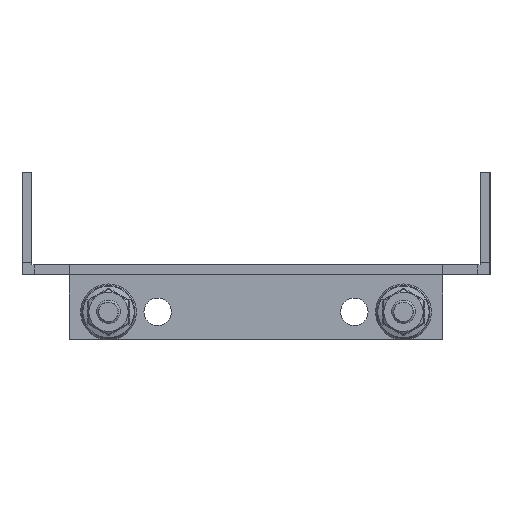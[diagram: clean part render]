
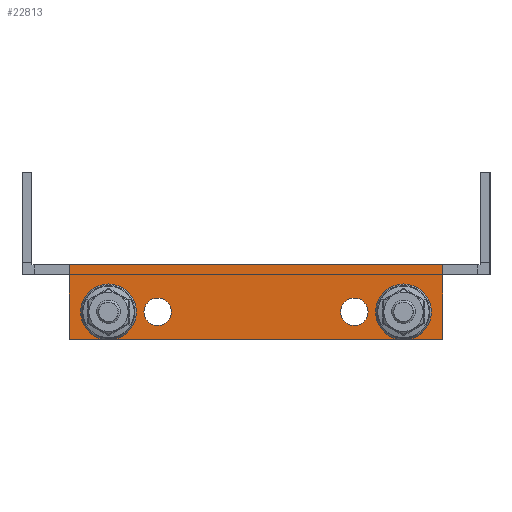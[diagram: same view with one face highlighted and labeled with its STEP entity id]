
A CAD part, left-side view. The second image highlights one B-rep face of the part: STEP entity #22813.
In plain terms, the highlighted planar face has unit normal (-1, 0, 0).
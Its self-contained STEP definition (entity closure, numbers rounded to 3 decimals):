
#11388 = VERTEX_POINT('',#11389);
#11389 = CARTESIAN_POINT('',(-550.,47.5,2.5));
#11395 = EDGE_CURVE('',#11396,#11388,#11398,.T.);
#11396 = VERTEX_POINT('',#11397);
#11397 = CARTESIAN_POINT('',(-550.,-47.5,2.5));
#11398 = LINE('',#11399,#11400);
#11399 = CARTESIAN_POINT('',(-550.,-57.,2.5));
#11400 = VECTOR('',#11401,1.);
#11401 = DIRECTION('',(-0.,1.,-0.));
#22692 = VERTEX_POINT('',#22693);
#22693 = CARTESIAN_POINT('',(-550.,-47.5,-0.6));
#22708 = EDGE_CURVE('',#22692,#11396,#22709,.T.);
#22709 = LINE('',#22710,#22711);
#22710 = CARTESIAN_POINT('',(-550.,-47.5,-0.6));
#22711 = VECTOR('',#22712,1.);
#22712 = DIRECTION('',(0.,-0.,1.));
#22732 = VERTEX_POINT('',#22733);
#22733 = CARTESIAN_POINT('',(-550.,47.5,-0.6));
#22739 = EDGE_CURVE('',#22732,#11388,#22740,.T.);
#22740 = LINE('',#22741,#22742);
#22741 = CARTESIAN_POINT('',(-550.,47.5,0.));
#22742 = VECTOR('',#22743,1.);
#22743 = DIRECTION('',(0.,0.,1.));
#22755 = EDGE_CURVE('',#22756,#22732,#22758,.T.);
#22756 = VERTEX_POINT('',#22757);
#22757 = CARTESIAN_POINT('',(-550.,47.5,-16.5));
#22758 = LINE('',#22759,#22760);
#22759 = CARTESIAN_POINT('',(-550.,47.5,0.));
#22760 = VECTOR('',#22761,1.);
#22761 = DIRECTION('',(0.,-0.,1.));
#22795 = EDGE_CURVE('',#22692,#22796,#22798,.T.);
#22796 = VERTEX_POINT('',#22797);
#22797 = CARTESIAN_POINT('',(-550.,-47.5,-16.5));
#22798 = LINE('',#22799,#22800);
#22799 = CARTESIAN_POINT('',(-550.,-47.5,-16.5));
#22800 = VECTOR('',#22801,1.);
#22801 = DIRECTION('',(0.,0.,-1.));
#22813 = ADVANCED_FACE('',(#22814,#22834,#22854,#22865,#22876),#22889,
  .T.);
#22814 = FACE_BOUND('',#22815,.T.);
#22815 = EDGE_LOOP('',(#22816,#22827));
#22816 = ORIENTED_EDGE('',*,*,#22817,.F.);
#22817 = EDGE_CURVE('',#22818,#22820,#22822,.T.);
#22818 = VERTEX_POINT('',#22819);
#22819 = CARTESIAN_POINT('',(-550.,-37.5,-13.));
#22820 = VERTEX_POINT('',#22821);
#22821 = CARTESIAN_POINT('',(-550.,-37.5,-6.));
#22822 = CIRCLE('',#22823,3.5);
#22823 = AXIS2_PLACEMENT_3D('',#22824,#22825,#22826);
#22824 = CARTESIAN_POINT('',(-550.,-37.5,-9.5));
#22825 = DIRECTION('',(-1.,0.,0.));
#22826 = DIRECTION('',(0.,0.,-1.));
#22827 = ORIENTED_EDGE('',*,*,#22828,.F.);
#22828 = EDGE_CURVE('',#22820,#22818,#22829,.T.);
#22829 = CIRCLE('',#22830,3.5);
#22830 = AXIS2_PLACEMENT_3D('',#22831,#22832,#22833);
#22831 = CARTESIAN_POINT('',(-550.,-37.5,-9.5));
#22832 = DIRECTION('',(-1.,0.,0.));
#22833 = DIRECTION('',(0.,0.,-1.));
#22834 = FACE_BOUND('',#22835,.T.);
#22835 = EDGE_LOOP('',(#22836,#22847));
#22836 = ORIENTED_EDGE('',*,*,#22837,.F.);
#22837 = EDGE_CURVE('',#22838,#22840,#22842,.T.);
#22838 = VERTEX_POINT('',#22839);
#22839 = CARTESIAN_POINT('',(-550.,-25.,-13.));
#22840 = VERTEX_POINT('',#22841);
#22841 = CARTESIAN_POINT('',(-550.,-25.,-6.));
#22842 = CIRCLE('',#22843,3.5);
#22843 = AXIS2_PLACEMENT_3D('',#22844,#22845,#22846);
#22844 = CARTESIAN_POINT('',(-550.,-25.,-9.5));
#22845 = DIRECTION('',(-1.,0.,0.));
#22846 = DIRECTION('',(0.,0.,-1.));
#22847 = ORIENTED_EDGE('',*,*,#22848,.F.);
#22848 = EDGE_CURVE('',#22840,#22838,#22849,.T.);
#22849 = CIRCLE('',#22850,3.5);
#22850 = AXIS2_PLACEMENT_3D('',#22851,#22852,#22853);
#22851 = CARTESIAN_POINT('',(-550.,-25.,-9.5));
#22852 = DIRECTION('',(-1.,0.,0.));
#22853 = DIRECTION('',(0.,0.,-1.));
#22854 = FACE_BOUND('',#22855,.T.);
#22855 = EDGE_LOOP('',(#22856));
#22856 = ORIENTED_EDGE('',*,*,#22857,.F.);
#22857 = EDGE_CURVE('',#22858,#22858,#22860,.T.);
#22858 = VERTEX_POINT('',#22859);
#22859 = CARTESIAN_POINT('',(-550.,25.,-6.));
#22860 = CIRCLE('',#22861,3.5);
#22861 = AXIS2_PLACEMENT_3D('',#22862,#22863,#22864);
#22862 = CARTESIAN_POINT('',(-550.,25.,-9.5));
#22863 = DIRECTION('',(-1.,0.,0.));
#22864 = DIRECTION('',(0.,0.,1.));
#22865 = FACE_BOUND('',#22866,.T.);
#22866 = EDGE_LOOP('',(#22867));
#22867 = ORIENTED_EDGE('',*,*,#22868,.F.);
#22868 = EDGE_CURVE('',#22869,#22869,#22871,.T.);
#22869 = VERTEX_POINT('',#22870);
#22870 = CARTESIAN_POINT('',(-550.,37.5,-6.));
#22871 = CIRCLE('',#22872,3.5);
#22872 = AXIS2_PLACEMENT_3D('',#22873,#22874,#22875);
#22873 = CARTESIAN_POINT('',(-550.,37.5,-9.5));
#22874 = DIRECTION('',(-1.,0.,0.));
#22875 = DIRECTION('',(0.,0.,1.));
#22876 = FACE_BOUND('',#22877,.T.);
#22877 = EDGE_LOOP('',(#22878,#22879,#22880,#22881,#22882,#22883));
#22878 = ORIENTED_EDGE('',*,*,#22795,.F.);
#22879 = ORIENTED_EDGE('',*,*,#22708,.T.);
#22880 = ORIENTED_EDGE('',*,*,#11395,.T.);
#22881 = ORIENTED_EDGE('',*,*,#22739,.F.);
#22882 = ORIENTED_EDGE('',*,*,#22755,.F.);
#22883 = ORIENTED_EDGE('',*,*,#22884,.F.);
#22884 = EDGE_CURVE('',#22796,#22756,#22885,.T.);
#22885 = LINE('',#22886,#22887);
#22886 = CARTESIAN_POINT('',(-550.,47.5,-16.5));
#22887 = VECTOR('',#22888,1.);
#22888 = DIRECTION('',(-0.,1.,-0.));
#22889 = PLANE('',#22890);
#22890 = AXIS2_PLACEMENT_3D('',#22891,#22892,#22893);
#22891 = CARTESIAN_POINT('',(-550.,47.5,0.));
#22892 = DIRECTION('',(-1.,0.,0.));
#22893 = DIRECTION('',(0.,0.,1.));
